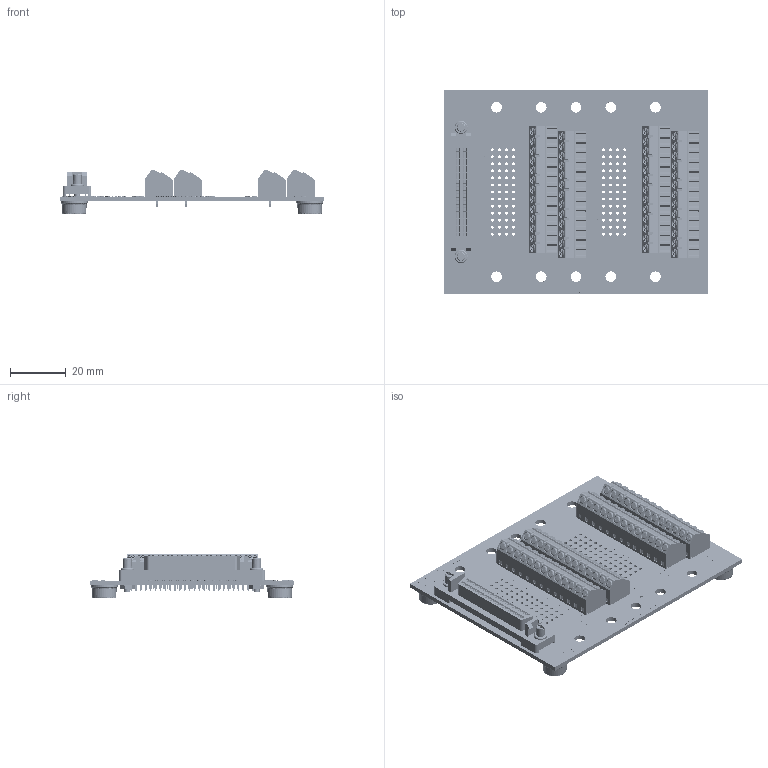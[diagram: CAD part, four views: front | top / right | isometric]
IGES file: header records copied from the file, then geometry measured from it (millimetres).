
Start section: SolidWorks IGES file using analytic representation for surfaces
Global section: file name: C:\Users\Jonny\Documents\Winford Engineering Jobs\BRKBDP50FV1-SB\brkbdp50fv1-sb-ft_rev_a.igs; native system: SolidWorks 2017; preprocessor: SolidWorks 2017; author: Jonny; date: 180311.223828; units: inch
Bounding box: 95.25 x 73.66 x 16.11 mm (x, y, z)
Surface area: 34582.5 mm2 (no closed solid volume)
Topology: 0 solids, 0 shells, 8998 faces, 60517 edges, 60413 vertices
Faces by surface type: bspline 7711, revolution 1287
